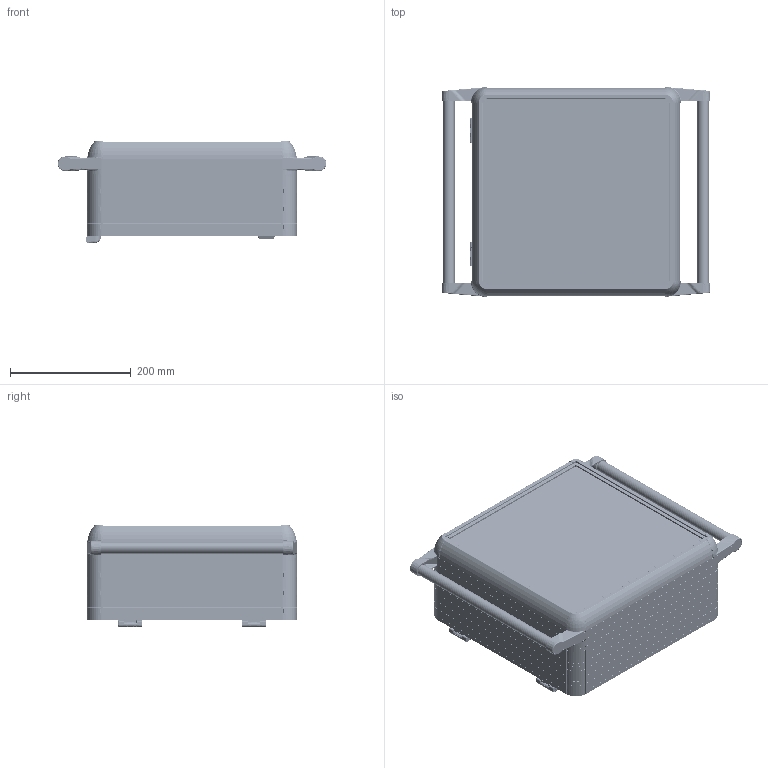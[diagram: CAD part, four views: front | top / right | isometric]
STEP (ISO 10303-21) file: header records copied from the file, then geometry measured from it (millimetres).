
FILE_DESCRIPTION (( 'STEP AP214' ), '1' );
FILE_NAME ('1500-0204.STEP', '2022-09-01T08:50:02', ( '' ), ( '' ), 'SwSTEP 2.0', 'SolidWorks 2022', '' );
FILE_SCHEMA (( 'AUTOMOTIVE_DESIGN' ));
Length unit declared in the file: millimetre
Products named in the file (7): ARKA_KAPAK_300X300; boru_325; 300X300; ECO1500-0100(SOL); ECO1500-0100(SAÐ); HPECO-150-001_295; 1500-0204
Assembly tree (12 placements, depth 2):
  1500-0204
    300X300
    ARKA_KAPAK_300X300
    HPECO-150-001_295  x4
    boru_325  x2
    ECO1500-0100(SOL)  x2
    ECO1500-0100(SAÐ)  x2
Bounding box: 444.62 x 347 x 169.15 mm (x, y, z)
Volume: 1774828.1 mm3; surface area: 1589340.1 mm2
Topology: 48 solids, 98 shells, 11397 faces, 29616 edges, 17990 vertices
Faces by surface type: plane 3701, cylinder 3188, bspline 3052, cone 798, torus 524, sphere 134
Entity records: 307428 total; most frequent: CARTESIAN_POINT 91894, ORIENTED_EDGE 34034, DIRECTION 27227, EDGE_CURVE 17017, VERTEX_POINT 10394, AXIS2_PLACEMENT_3D 10123, LINE 6981, VECTOR 6981
